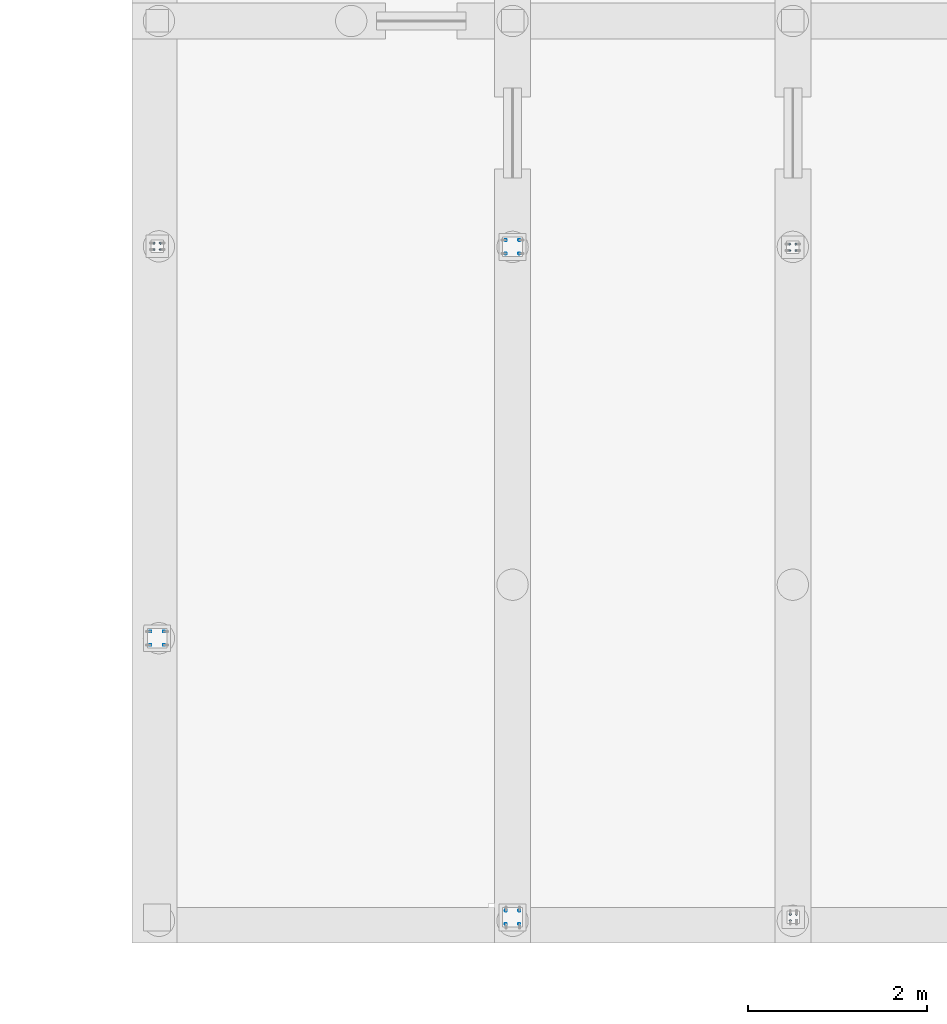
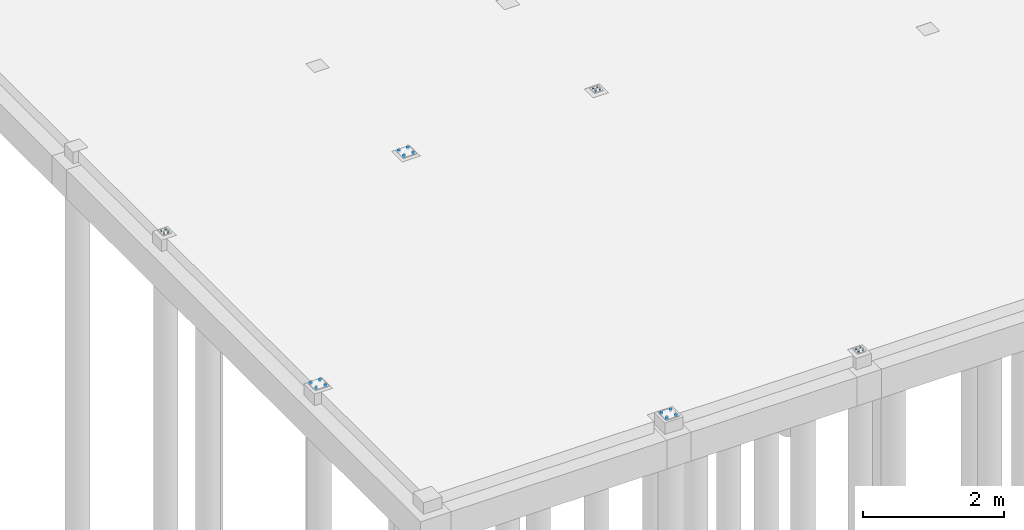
# One storey, part 9 of 22: 6 mechanical fasteners.
"""IFC2X3 building model written with IfcOpenShell, lengths in millimetres."""

from ifc_helpers import new_model, si_unit, frame, origin_with_axes, origin_2d_with_axis, place, context, subcontext, project, spatial, circle, extrude, source, transform, mapped, material, type_object, element, save


model = new_model("IFC2X3")

# Units and contexts
model_context = context("Model", 3, precision=1e-05, world=origin_with_axes())
body_context = subcontext(model_context, "Body", "Model", "MODEL_VIEW")
ifc_project = project(units=[si_unit("LENGTHUNIT", "METRE", prefix="MILLI"), si_unit("AREAUNIT", "SQUARE_METRE"), si_unit("VOLUMEUNIT", "CUBIC_METRE"), si_unit("MASSUNIT", "GRAM", prefix="KILO"), si_unit("TIMEUNIT", "SECOND"), si_unit("PLANEANGLEUNIT", "RADIAN"), si_unit("SOLIDANGLEUNIT", "STERADIAN"), si_unit("THERMODYNAMICTEMPERATUREUNIT", "DEGREE_CELSIUS"), si_unit("LUMINOUSINTENSITYUNIT", "LUMEN")], contexts=[model_context])

# Site, building, storey
site_placement = place(None, origin_with_axes())
site = spatial("IfcSite", under=ifc_project, at=site_placement, Name="Undefined", CompositionType="ELEMENT")
building_placement = place(site_placement, origin_with_axes())
building = spatial("IfcBuilding", under=site, at=building_placement, Name="Undefined", CompositionType="ELEMENT")
storey_placement = place(building_placement, origin_with_axes())
storey = spatial("IfcBuildingStorey", under=building, at=storey_placement, Name="Undefined", CompositionType="ELEMENT", Elevation=0.0)

# Mechanical fasteners
ifc_material = material(Name="Undefined")
mechanical_fastener_type = type_object("IfcMechanicalFastenerType", Name="Bolt assembly")
shared_shape = source(origin_with_axes(), body_context, "Body", "SweptSolid", [
    extrude(circle(Radius=10.0, at=origin_2d_with_axis()), frame((0.0, -15.0, 0.0), z_axis=(0.0, 1.0, 0.0), x_axis=(1.0, 0.0, 0.0)), (0.0, 0.0, 1.0), 15.1),
])
mechanical_fastener_1_placement = place(storey_placement, frame((15576.5604272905, 7753.91806354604, -35.0), z_axis=(0.0, 1.0, 0.0), x_axis=(-1.0, 0.0, 0.0)))
element("IfcMechanicalFastener", 1, at=mechanical_fastener_1_placement, inside=storey, type_object=mechanical_fastener_type, material=ifc_material, Name="Bolt assembly", NominalDiameter=16.0, NominalLength=15.0, context=body_context, shape_type="MappedRepresentation", body=[
    mapped(shared_shape, transform((-5.15000152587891, 0.0, -75.0))),
    mapped(shared_shape, transform((-5.15000152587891, 0.0, 75.0))),
    mapped(shared_shape, transform((144.849998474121, 0.0, -75.0))),
    mapped(shared_shape, transform((144.849998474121, 0.0, 75.0))),
])
for number, where, z_axis, x_axis, name in (
    (2, (18631.9948343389, 7816.26587991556, -35.0), (-1.0, 0.0, 0.0), (0.0, -1.0, 0.0), "Bolt assembly"),
    (3, (11608.5104288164, 7759.91806354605, -35.0), (0.0, 1.0, 0.0), (-1.0, 0.0, 0.0), "Bolt assembly"),
):
    element("IfcMechanicalFastener", number, at=place(storey_placement, frame(where, z_axis=z_axis, x_axis=x_axis)), inside=storey, type_object=mechanical_fastener_type, material=ifc_material, Name=name, NominalDiameter=16.0, NominalLength=15.0, context=body_context, shape_type="MappedRepresentation", body=[
        mapped(shared_shape, transform((31.5, 0.0, -35.0))),
        mapped(shared_shape, transform((31.5, 0.0, 35.0))),
        mapped(shared_shape, transform((101.5, 0.0, -35.0))),
        mapped(shared_shape, transform((101.5, 0.0, 35.0))),
    ])
mechanical_fastener_2_placement = place(storey_placement, frame((11611.8600616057, 3388.27671001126, -35.0), z_axis=(0.0, 1.0, 0.0), x_axis=(-1.0, 0.0, 0.0)))
element("IfcMechanicalFastener", 4, at=mechanical_fastener_2_placement, inside=storey, type_object=mechanical_fastener_type, material=ifc_material, Name="Bolt assembly", NominalDiameter=16.0, NominalLength=15.0, context=body_context, shape_type="MappedRepresentation", body=[
    mapped(shared_shape, transform((-5.15000152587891, 0.0, -75.0))),
    mapped(shared_shape, transform((-5.15000152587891, 0.0, 75.0))),
    mapped(shared_shape, transform((144.849998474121, 0.0, -75.0))),
    mapped(shared_shape, transform((144.849998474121, 0.0, 75.0))),
])
mechanical_fastener_3_placement = place(storey_placement, frame((18638.6948343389, 341.121222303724, -35.0), z_axis=(-1.0, 0.0, 0.0), x_axis=(0.0, -1.0, 0.0)))
element("IfcMechanicalFastener", 5, at=mechanical_fastener_3_placement, inside=storey, type_object=mechanical_fastener_type, material=ifc_material, Name="Bolt assembly", NominalDiameter=16.0, NominalLength=15.0, context=body_context, shape_type="MappedRepresentation", body=[
    mapped(shared_shape, transform((31.5, 0.0, -35.0))),
    mapped(shared_shape, transform((31.5, 0.0, 35.0))),
    mapped(shared_shape, transform((101.5, 0.0, -35.0))),
    mapped(shared_shape, transform((101.5, 0.0, 35.0))),
])
mechanical_fastener_4_placement = place(storey_placement, frame((15506.7104288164, 344.571220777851, -55.0), z_axis=(-1.0, 0.0, 0.0), x_axis=(0.0, -1.0, 0.0)))
element("IfcMechanicalFastener", 6, at=mechanical_fastener_4_placement, inside=storey, type_object=mechanical_fastener_type, material=ifc_material, Name="Bolt assembly", NominalDiameter=16.0, NominalLength=15.0, context=body_context, shape_type="MappedRepresentation", body=[
    mapped(shared_shape, transform((-5.15000152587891, 0.0, -75.0))),
    mapped(shared_shape, transform((-5.15000152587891, 0.0, 75.0))),
    mapped(shared_shape, transform((144.849998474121, 0.0, -75.0))),
    mapped(shared_shape, transform((144.849998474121, 0.0, 75.0))),
])

save(model, "model.ifc")
